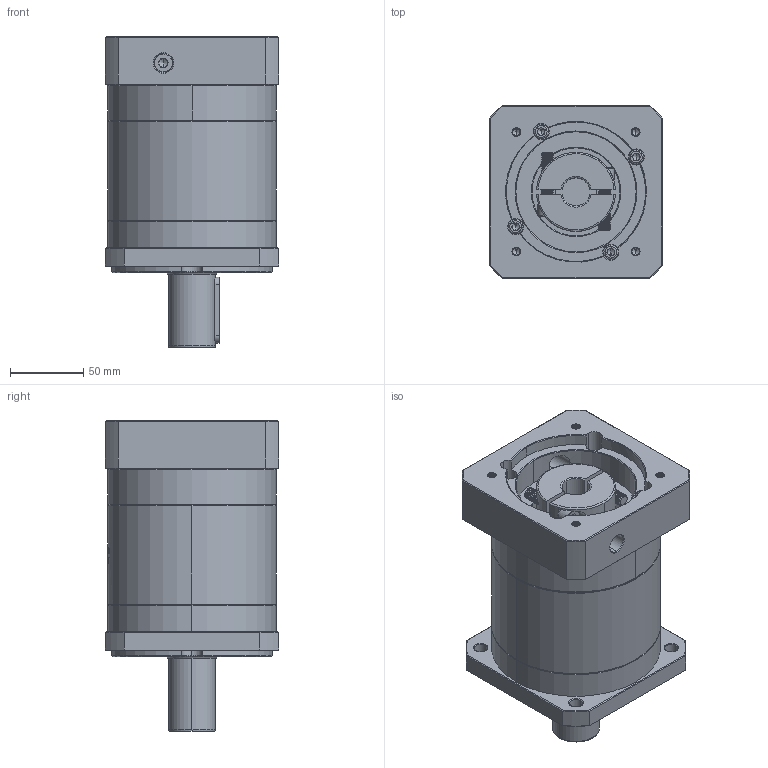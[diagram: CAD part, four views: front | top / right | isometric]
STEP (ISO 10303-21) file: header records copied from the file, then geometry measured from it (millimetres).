
FILE_DESCRIPTION (( 'STEP AP214' ), '1' );
FILE_NAME ('ZF120A-D32-L2-P2-19-95-115-M6.step', '2023-08-27T04:45:11', ( '' ), ( '' ), 'SwSTEP 2.0', 'SolidWorks 2016', '' );
FILE_SCHEMA (( 'AUTOMOTIVE_DESIGN' ));
Length unit declared in the file: millimetre
Products named in the file (1): ZF120A-D32-L2-P2-19-95-115-M6
Bounding box: 118 x 118 x 212 mm (x, y, z)
Volume: 1676326.2 mm3; surface area: 169258.7 mm2
Topology: 6 solids, 6 shells, 2235 faces, 5956 edges, 3822 vertices
Faces by surface type: plane 1034, bspline 439, cylinder 421, cone 341
Entity records: 123125 total; most frequent: CARTESIAN_POINT 48320, ORIENTED_EDGE 11852, DIRECTION 8606, EDGE_CURVE 5926, VERTEX_POINT 3822, LINE 3100, VECTOR 3100, AXIS2_PLACEMENT_3D 2753
